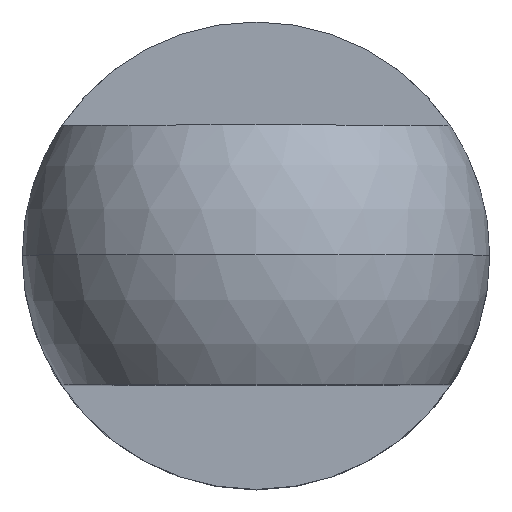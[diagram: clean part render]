
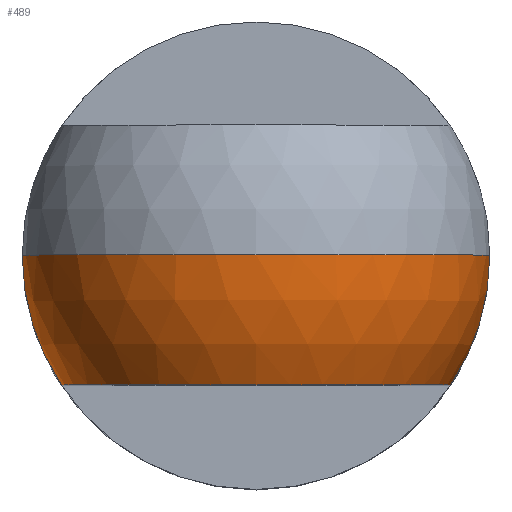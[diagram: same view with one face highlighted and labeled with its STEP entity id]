
A CAD part, top view. The second image highlights one B-rep face of the part: STEP entity #489.
In plain terms, the highlighted spherical face has radius 9 mm.
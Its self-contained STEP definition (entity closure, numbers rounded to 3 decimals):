
#6 = CIRCLE ( 'NONE', #46, 9. ) ;
#14 = AXIS2_PLACEMENT_3D ( 'NONE', #222, #561, #183 ) ;
#41 = DIRECTION ( 'NONE',  ( 0., 0., -1. ) ) ;
#46 = AXIS2_PLACEMENT_3D ( 'NONE', #482, #41, #493 ) ;
#51 = ORIENTED_EDGE ( 'NONE', *, *, #295, .T. ) ;
#68 = CARTESIAN_POINT ( 'NONE',  ( 0., 0., 34. ) ) ;
#78 = CARTESIAN_POINT ( 'NONE',  ( 0., -5., 25. ) ) ;
#103 = DIRECTION ( 'NONE',  ( 0., 1., 0. ) ) ;
#122 = DIRECTION ( 'NONE',  ( -1., 0., 0. ) ) ;
#123 = DIRECTION ( 'NONE',  ( 0., 0., 1. ) ) ;
#131 = ORIENTED_EDGE ( 'NONE', *, *, #608, .F. ) ;
#183 = DIRECTION ( 'NONE',  ( 0., 0., -1. ) ) ;
#189 = AXIS2_PLACEMENT_3D ( 'NONE', #593, #258, #122 ) ;
#203 = EDGE_CURVE ( 'NONE', #607, #461, #450, .T. ) ;
#222 = CARTESIAN_POINT ( 'NONE',  ( 0., 0., 25. ) ) ;
#228 = CIRCLE ( 'NONE', #189, 9. ) ;
#231 = AXIS2_PLACEMENT_3D ( 'NONE', #582, #453, #413 ) ;
#258 = DIRECTION ( 'NONE',  ( 0., 0., -1. ) ) ;
#288 = ORIENTED_EDGE ( 'NONE', *, *, #203, .T. ) ;
#294 = EDGE_LOOP ( 'NONE', ( #333, #288, #463, #51, #131 ) ) ;
#295 = EDGE_CURVE ( 'NONE', #433, #626, #543, .T. ) ;
#299 = CARTESIAN_POINT ( 'NONE',  ( -9., 0., 25. ) ) ;
#307 = CIRCLE ( 'NONE', #231, 9. ) ;
#308 = DIRECTION ( 'NONE',  ( -1., 0., 0. ) ) ;
#333 = ORIENTED_EDGE ( 'NONE', *, *, #465, .F. ) ;
#379 = AXIS2_PLACEMENT_3D ( 'NONE', #546, #103, #308 ) ;
#398 = EDGE_CURVE ( 'NONE', #433, #461, #6, .T. ) ;
#413 = DIRECTION ( 'NONE',  ( -1., 0., 0. ) ) ;
#428 = CARTESIAN_POINT ( 'NONE',  ( 7.483, -5., 25. ) ) ;
#433 = VERTEX_POINT ( 'NONE', #525 ) ;
#436 = DIRECTION ( 'NONE',  ( 0., 1., 0. ) ) ;
#450 = CIRCLE ( 'NONE', #14, 9. ) ;
#453 = DIRECTION ( 'NONE',  ( 0., 1., 0. ) ) ;
#461 = VERTEX_POINT ( 'NONE', #299 ) ;
#463 = ORIENTED_EDGE ( 'NONE', *, *, #398, .F. ) ;
#465 = EDGE_CURVE ( 'NONE', #607, #471, #307, .T. ) ;
#471 = VERTEX_POINT ( 'NONE', #500 ) ;
#482 = CARTESIAN_POINT ( 'NONE',  ( 0., 0., 25. ) ) ;
#489 = ADVANCED_FACE ( 'NONE', ( #576 ), #565, .T. ) ;
#493 = DIRECTION ( 'NONE',  ( -1., 0., 0. ) ) ;
#500 = CARTESIAN_POINT ( 'NONE',  ( 9., 0., 25. ) ) ;
#525 = CARTESIAN_POINT ( 'NONE',  ( -7.483, -5., 25. ) ) ;
#543 = CIRCLE ( 'NONE', #604, 7.483 ) ;
#546 = CARTESIAN_POINT ( 'NONE',  ( 0., 0., 25. ) ) ;
#561 = DIRECTION ( 'NONE',  ( 0., -1., 0. ) ) ;
#565 = SPHERICAL_SURFACE ( 'NONE', #379, 9. ) ;
#576 = FACE_OUTER_BOUND ( 'NONE', #294, .T. ) ;
#582 = CARTESIAN_POINT ( 'NONE',  ( 0., 0., 25. ) ) ;
#593 = CARTESIAN_POINT ( 'NONE',  ( 0., 0., 25. ) ) ;
#604 = AXIS2_PLACEMENT_3D ( 'NONE', #78, #436, #123 ) ;
#607 = VERTEX_POINT ( 'NONE', #68 ) ;
#608 = EDGE_CURVE ( 'NONE', #471, #626, #228, .T. ) ;
#626 = VERTEX_POINT ( 'NONE', #428 ) ;
